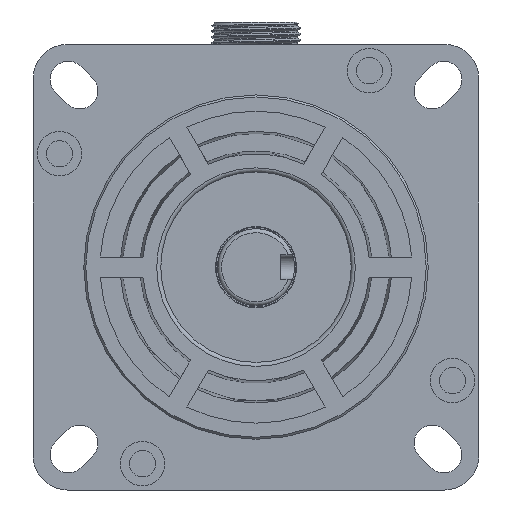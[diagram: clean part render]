
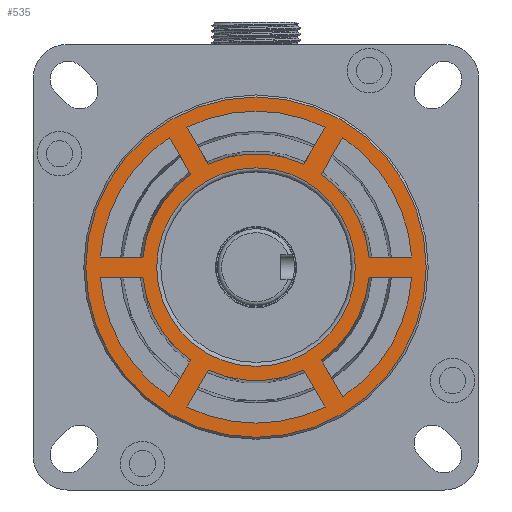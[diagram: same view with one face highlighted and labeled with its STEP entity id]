
A CAD part, front view. The second image highlights one B-rep face of the part: STEP entity #535.
In plain terms, the highlighted planar face has unit normal (0, -1, 0).
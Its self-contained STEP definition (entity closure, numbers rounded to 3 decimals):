
#338=FACE_BOUND('',#1234,.T.);
#339=FACE_BOUND('',#1235,.T.);
#340=FACE_BOUND('',#1236,.T.);
#341=FACE_BOUND('',#1237,.T.);
#342=FACE_BOUND('',#1238,.T.);
#343=FACE_BOUND('',#1239,.T.);
#344=FACE_BOUND('',#1240,.T.);
#345=FACE_BOUND('',#1241,.T.);
#535=ADVANCED_FACE('',(#338,#339,#340,#341,#342,#343,#344,#345),#750,.T.);
#750=PLANE('',#5239);
#1234=EDGE_LOOP('',(#2720));
#1235=EDGE_LOOP('',(#2721,#2722,#2723,#2724));
#1236=EDGE_LOOP('',(#2725,#2726,#2727,#2728));
#1237=EDGE_LOOP('',(#2729,#2730,#2731,#2732));
#1238=EDGE_LOOP('',(#2733,#2734,#2735,#2736));
#1239=EDGE_LOOP('',(#2737,#2738,#2739,#2740));
#1240=EDGE_LOOP('',(#2741,#2742,#2743,#2744));
#1241=EDGE_LOOP('',(#2745));
#1585=LINE('',#7801,#1947);
#1586=LINE('',#7806,#1948);
#1587=LINE('',#7812,#1949);
#1588=LINE('',#7816,#1950);
#1589=LINE('',#7820,#1951);
#1590=LINE('',#7824,#1952);
#1591=LINE('',#7828,#1953);
#1592=LINE('',#7832,#1954);
#1593=LINE('',#7833,#1955);
#1594=LINE('',#7838,#1956);
#1595=LINE('',#7844,#1957);
#1596=LINE('',#7848,#1958);
#1947=VECTOR('',#6200,1.);
#1948=VECTOR('',#6203,1.);
#1949=VECTOR('',#6208,1.);
#1950=VECTOR('',#6211,1.);
#1951=VECTOR('',#6214,1.);
#1952=VECTOR('',#6217,1.);
#1953=VECTOR('',#6220,1.);
#1954=VECTOR('',#6223,1.);
#1955=VECTOR('',#6224,1.);
#1956=VECTOR('',#6227,1.);
#1957=VECTOR('',#6232,1.);
#1958=VECTOR('',#6235,1.);
#2720=ORIENTED_EDGE('',*,*,#4286,.T.);
#2721=ORIENTED_EDGE('',*,*,#4287,.F.);
#2722=ORIENTED_EDGE('',*,*,#4288,.F.);
#2723=ORIENTED_EDGE('',*,*,#4289,.F.);
#2724=ORIENTED_EDGE('',*,*,#4290,.F.);
#2725=ORIENTED_EDGE('',*,*,#4291,.F.);
#2726=ORIENTED_EDGE('',*,*,#4292,.F.);
#2727=ORIENTED_EDGE('',*,*,#4293,.F.);
#2728=ORIENTED_EDGE('',*,*,#4294,.F.);
#2729=ORIENTED_EDGE('',*,*,#4295,.F.);
#2730=ORIENTED_EDGE('',*,*,#4296,.F.);
#2731=ORIENTED_EDGE('',*,*,#4297,.F.);
#2732=ORIENTED_EDGE('',*,*,#4298,.F.);
#2733=ORIENTED_EDGE('',*,*,#4299,.F.);
#2734=ORIENTED_EDGE('',*,*,#4300,.F.);
#2735=ORIENTED_EDGE('',*,*,#4301,.F.);
#2736=ORIENTED_EDGE('',*,*,#4302,.F.);
#2737=ORIENTED_EDGE('',*,*,#4303,.F.);
#2738=ORIENTED_EDGE('',*,*,#4304,.F.);
#2739=ORIENTED_EDGE('',*,*,#4305,.F.);
#2740=ORIENTED_EDGE('',*,*,#4306,.F.);
#2741=ORIENTED_EDGE('',*,*,#4307,.F.);
#2742=ORIENTED_EDGE('',*,*,#4308,.F.);
#2743=ORIENTED_EDGE('',*,*,#4309,.F.);
#2744=ORIENTED_EDGE('',*,*,#4310,.F.);
#2745=ORIENTED_EDGE('',*,*,#4311,.T.);
#3735=VERTEX_POINT('',#7800);
#3736=VERTEX_POINT('',#7802);
#3737=VERTEX_POINT('',#7803);
#3738=VERTEX_POINT('',#7805);
#3739=VERTEX_POINT('',#7807);
#3740=VERTEX_POINT('',#7810);
#3741=VERTEX_POINT('',#7811);
#3742=VERTEX_POINT('',#7813);
#3743=VERTEX_POINT('',#7815);
#3744=VERTEX_POINT('',#7818);
#3745=VERTEX_POINT('',#7819);
#3746=VERTEX_POINT('',#7821);
#3747=VERTEX_POINT('',#7823);
#3748=VERTEX_POINT('',#7826);
#3749=VERTEX_POINT('',#7827);
#3750=VERTEX_POINT('',#7829);
#3751=VERTEX_POINT('',#7831);
#3752=VERTEX_POINT('',#7834);
#3753=VERTEX_POINT('',#7835);
#3754=VERTEX_POINT('',#7837);
#3755=VERTEX_POINT('',#7839);
#3756=VERTEX_POINT('',#7842);
#3757=VERTEX_POINT('',#7843);
#3758=VERTEX_POINT('',#7845);
#3759=VERTEX_POINT('',#7847);
#3760=VERTEX_POINT('',#7850);
#4286=EDGE_CURVE('',#3735,#3735,#4815,.T.);
#4287=EDGE_CURVE('',#3736,#3737,#1585,.T.);
#4288=EDGE_CURVE('',#3738,#3736,#4816,.T.);
#4289=EDGE_CURVE('',#3739,#3738,#1586,.T.);
#4290=EDGE_CURVE('',#3737,#3739,#4817,.T.);
#4291=EDGE_CURVE('',#3740,#3741,#4818,.T.);
#4292=EDGE_CURVE('',#3742,#3740,#1587,.T.);
#4293=EDGE_CURVE('',#3743,#3742,#4819,.T.);
#4294=EDGE_CURVE('',#3741,#3743,#1588,.T.);
#4295=EDGE_CURVE('',#3744,#3745,#4820,.T.);
#4296=EDGE_CURVE('',#3746,#3744,#1589,.T.);
#4297=EDGE_CURVE('',#3747,#3746,#4821,.T.);
#4298=EDGE_CURVE('',#3745,#3747,#1590,.T.);
#4299=EDGE_CURVE('',#3748,#3749,#4822,.T.);
#4300=EDGE_CURVE('',#3750,#3748,#1591,.T.);
#4301=EDGE_CURVE('',#3751,#3750,#4823,.T.);
#4302=EDGE_CURVE('',#3749,#3751,#1592,.T.);
#4303=EDGE_CURVE('',#3752,#3753,#1593,.T.);
#4304=EDGE_CURVE('',#3754,#3752,#4824,.T.);
#4305=EDGE_CURVE('',#3755,#3754,#1594,.T.);
#4306=EDGE_CURVE('',#3753,#3755,#4825,.T.);
#4307=EDGE_CURVE('',#3756,#3757,#4826,.T.);
#4308=EDGE_CURVE('',#3758,#3756,#1595,.T.);
#4309=EDGE_CURVE('',#3759,#3758,#4827,.T.);
#4310=EDGE_CURVE('',#3757,#3759,#1596,.T.);
#4311=EDGE_CURVE('',#3760,#3760,#4828,.T.);
#4815=CIRCLE('',#5225,42.);
#4816=CIRCLE('',#5226,38.5);
#4817=CIRCLE('',#5227,28.);
#4818=CIRCLE('',#5228,38.5);
#4819=CIRCLE('',#5229,28.);
#4820=CIRCLE('',#5230,38.5);
#4821=CIRCLE('',#5231,28.);
#4822=CIRCLE('',#5232,38.5);
#4823=CIRCLE('',#5233,28.);
#4824=CIRCLE('',#5234,38.5);
#4825=CIRCLE('',#5235,28.);
#4826=CIRCLE('',#5236,38.5);
#4827=CIRCLE('',#5237,28.);
#4828=CIRCLE('',#5238,24.5);
#5225=AXIS2_PLACEMENT_3D('',#7799,#6198,#6199);
#5226=AXIS2_PLACEMENT_3D('',#7804,#6201,#6202);
#5227=AXIS2_PLACEMENT_3D('',#7808,#6204,#6205);
#5228=AXIS2_PLACEMENT_3D('',#7809,#6206,#6207);
#5229=AXIS2_PLACEMENT_3D('',#7814,#6209,#6210);
#5230=AXIS2_PLACEMENT_3D('',#7817,#6212,#6213);
#5231=AXIS2_PLACEMENT_3D('',#7822,#6215,#6216);
#5232=AXIS2_PLACEMENT_3D('',#7825,#6218,#6219);
#5233=AXIS2_PLACEMENT_3D('',#7830,#6221,#6222);
#5234=AXIS2_PLACEMENT_3D('',#7836,#6225,#6226);
#5235=AXIS2_PLACEMENT_3D('',#7840,#6228,#6229);
#5236=AXIS2_PLACEMENT_3D('',#7841,#6230,#6231);
#5237=AXIS2_PLACEMENT_3D('',#7846,#6233,#6234);
#5238=AXIS2_PLACEMENT_3D('',#7849,#6236,#6237);
#5239=AXIS2_PLACEMENT_3D('',#7851,#6238,#6239);
#6198=DIRECTION('',(0.,-1.,0.));
#6199=DIRECTION('',(0.,0.,-1.));
#6200=DIRECTION('',(-1.,0.,0.));
#6201=DIRECTION('',(0.,-1.,0.));
#6202=DIRECTION('',(1.,0.,0.));
#6203=DIRECTION('',(0.5,0.,-0.866));
#6204=DIRECTION('',(0.,1.,0.));
#6205=DIRECTION('',(1.,0.,0.));
#6206=DIRECTION('',(0.,-1.,0.));
#6207=DIRECTION('',(1.,0.,0.));
#6208=DIRECTION('',(1.,0.,0.));
#6209=DIRECTION('',(0.,1.,0.));
#6210=DIRECTION('',(1.,0.,0.));
#6211=DIRECTION('',(-0.5,0.,-0.866));
#6212=DIRECTION('',(0.,-1.,0.));
#6213=DIRECTION('',(1.,0.,0.));
#6214=DIRECTION('',(0.5,0.,0.866));
#6215=DIRECTION('',(0.,1.,0.));
#6216=DIRECTION('',(1.,0.,0.));
#6217=DIRECTION('',(0.5,0.,-0.866));
#6218=DIRECTION('',(0.,-1.,0.));
#6219=DIRECTION('',(1.,0.,0.));
#6220=DIRECTION('',(-0.5,0.,0.866));
#6221=DIRECTION('',(0.,1.,0.));
#6222=DIRECTION('',(1.,0.,0.));
#6223=DIRECTION('',(1.,0.,0.));
#6224=DIRECTION('',(0.5,0.,0.866));
#6225=DIRECTION('',(0.,-1.,0.));
#6226=DIRECTION('',(1.,0.,0.));
#6227=DIRECTION('',(-1.,0.,0.));
#6228=DIRECTION('',(0.,1.,0.));
#6229=DIRECTION('',(1.,0.,0.));
#6230=DIRECTION('',(0.,-1.,0.));
#6231=DIRECTION('',(1.,0.,0.));
#6232=DIRECTION('',(-0.5,0.,-0.866));
#6233=DIRECTION('',(0.,1.,0.));
#6234=DIRECTION('',(1.,0.,0.));
#6235=DIRECTION('',(-0.5,0.,0.866));
#6236=DIRECTION('',(0.,1.,0.));
#6237=DIRECTION('',(1.,0.,0.));
#6238=DIRECTION('',(0.,-1.,0.));
#6239=DIRECTION('',(-1.,0.,0.));
#7799=CARTESIAN_POINT('',(-196.062,5.034,-206.034));
#7800=CARTESIAN_POINT('',(-196.062,5.034,-248.034));
#7801=CARTESIAN_POINT('',(-196.062,5.034,-208.534));
#7802=CARTESIAN_POINT('',(-157.644,5.034,-208.534));
#7803=CARTESIAN_POINT('',(-168.174,5.034,-208.534));
#7804=CARTESIAN_POINT('',(-196.062,5.034,-206.034));
#7805=CARTESIAN_POINT('',(-174.688,5.034,-238.055));
#7806=CARTESIAN_POINT('',(-193.897,5.034,-204.784));
#7807=CARTESIAN_POINT('',(-179.953,5.034,-228.936));
#7808=CARTESIAN_POINT('',(-196.062,5.034,-206.034));
#7809=CARTESIAN_POINT('',(-196.062,5.034,-206.034));
#7810=CARTESIAN_POINT('',(-157.644,5.034,-203.534));
#7811=CARTESIAN_POINT('',(-174.688,5.034,-174.012));
#7812=CARTESIAN_POINT('',(-196.062,5.034,-203.534));
#7813=CARTESIAN_POINT('',(-168.174,5.034,-203.534));
#7814=CARTESIAN_POINT('',(-196.062,5.034,-206.034));
#7815=CARTESIAN_POINT('',(-179.953,5.034,-183.132));
#7816=CARTESIAN_POINT('',(-193.897,5.034,-207.284));
#7817=CARTESIAN_POINT('',(-196.062,5.034,-206.034));
#7818=CARTESIAN_POINT('',(-179.018,5.034,-171.512));
#7819=CARTESIAN_POINT('',(-213.107,5.034,-171.512));
#7820=CARTESIAN_POINT('',(-198.228,5.034,-204.784));
#7821=CARTESIAN_POINT('',(-184.283,5.034,-180.632));
#7822=CARTESIAN_POINT('',(-196.062,5.034,-206.034));
#7823=CARTESIAN_POINT('',(-207.841,5.034,-180.632));
#7824=CARTESIAN_POINT('',(-193.897,5.034,-204.784));
#7825=CARTESIAN_POINT('',(-196.062,5.034,-206.034));
#7826=CARTESIAN_POINT('',(-217.437,5.034,-174.012));
#7827=CARTESIAN_POINT('',(-234.481,5.034,-203.534));
#7828=CARTESIAN_POINT('',(-198.228,5.034,-207.284));
#7829=CARTESIAN_POINT('',(-212.172,5.034,-183.132));
#7830=CARTESIAN_POINT('',(-196.062,5.034,-206.034));
#7831=CARTESIAN_POINT('',(-223.951,5.034,-203.534));
#7832=CARTESIAN_POINT('',(-196.062,5.034,-203.534));
#7833=CARTESIAN_POINT('',(-198.228,5.034,-204.784));
#7834=CARTESIAN_POINT('',(-217.437,5.034,-238.055));
#7835=CARTESIAN_POINT('',(-212.172,5.034,-228.936));
#7836=CARTESIAN_POINT('',(-196.062,5.034,-206.034));
#7837=CARTESIAN_POINT('',(-234.481,5.034,-208.534));
#7838=CARTESIAN_POINT('',(-196.062,5.034,-208.534));
#7839=CARTESIAN_POINT('',(-223.951,5.034,-208.534));
#7840=CARTESIAN_POINT('',(-196.062,5.034,-206.034));
#7841=CARTESIAN_POINT('',(-196.062,5.034,-206.034));
#7842=CARTESIAN_POINT('',(-213.107,5.034,-240.555));
#7843=CARTESIAN_POINT('',(-179.018,5.034,-240.555));
#7844=CARTESIAN_POINT('',(-193.897,5.034,-207.284));
#7845=CARTESIAN_POINT('',(-207.841,5.034,-231.436));
#7846=CARTESIAN_POINT('',(-196.062,5.034,-206.034));
#7847=CARTESIAN_POINT('',(-184.283,5.034,-231.436));
#7848=CARTESIAN_POINT('',(-198.228,5.034,-207.284));
#7849=CARTESIAN_POINT('',(-196.062,5.034,-206.034));
#7850=CARTESIAN_POINT('',(-171.562,5.034,-206.034));
#7851=CARTESIAN_POINT('',(-196.062,5.034,-206.034));
